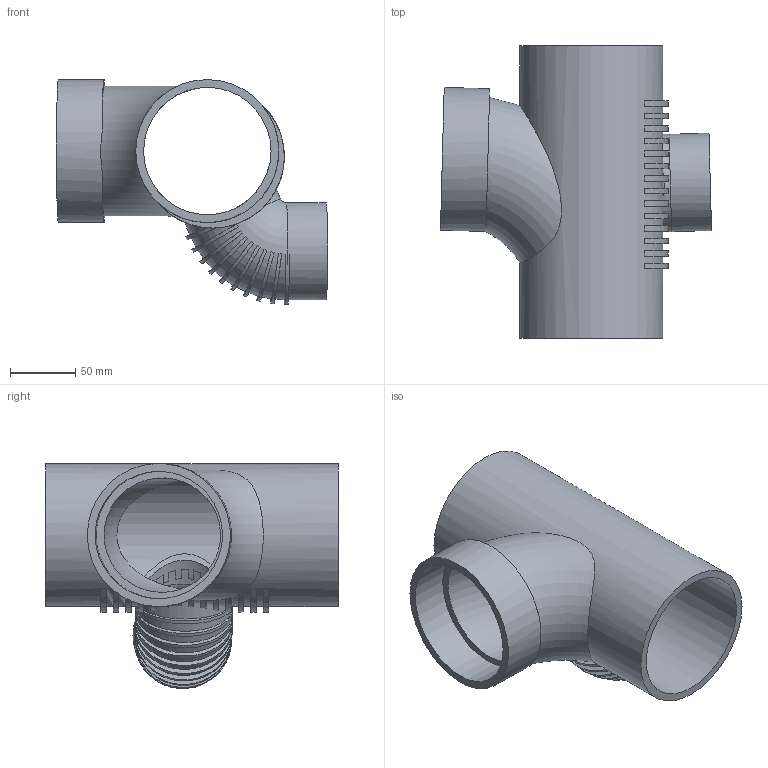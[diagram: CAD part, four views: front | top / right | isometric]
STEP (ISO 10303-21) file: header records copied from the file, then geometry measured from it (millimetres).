
FILE_DESCRIPTION(/* description */ (''),/* implementation_level */ '2;1');
FILE_NAME(/* name */ 'Z:\Geberit\Export\NewStep\SchachtabzweigMax_Ipart\stp\310171.stp',/* time_stamp */ '2014-04-03T18:12:49+02:00',/* author */ ('ML'),/* organization */ (''),/* preprocessor_version */ 'ST-DEVELOPER v15.2',/* originating_system */ 'Autodesk Inventor 2014',/* authorisation */ '');
FILE_SCHEMA (('AUTOMOTIVE_DESIGN { 1 0 10303 214 3 1 1 }'));
Length unit declared in the file: millimetre
Products named in the file (1): 310171
Bounding box: 208.46 x 225 x 172.97 mm (x, y, z)
Volume: 631618.5 mm3; surface area: 250556.1 mm2
Topology: 10 solids, 10 shells, 140 faces, 347 edges, 223 vertices
Faces by surface type: plane 68, cylinder 64, torus 8
Full cylindrical faces by diameter (mm): 67.8 x3, 75 x2, 98 x2, 110 x2
Entity records: 4780 total; most frequent: CARTESIAN_POINT 1404, DIRECTION 702, ORIENTED_EDGE 648, AXIS2_PLACEMENT_3D 321, EDGE_CURVE 316, VERTEX_POINT 215, EDGE_LOOP 175, CIRCLE 152
